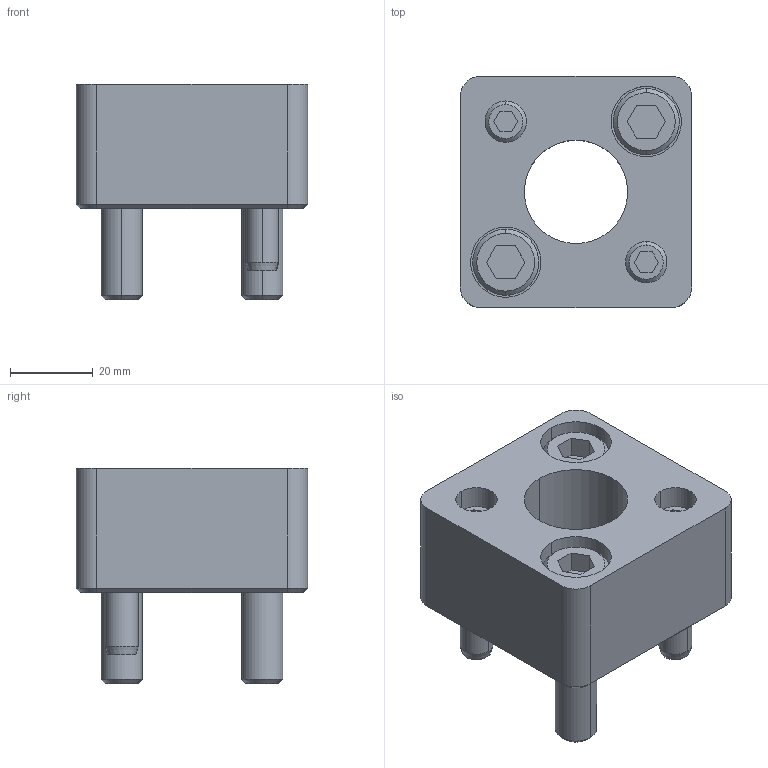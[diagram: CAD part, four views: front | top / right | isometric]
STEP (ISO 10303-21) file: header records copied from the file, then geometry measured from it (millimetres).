
FILE_DESCRIPTION(/* description */ (''),/* implementation_level */ '2;1');
FILE_NAME(/* name */ '3d_hmpsr25_04141_r00.stp',/* time_stamp */ '2011-01-10T14:14:41+09:00',/* author */ ('MISUMI'),/* organization */ (''),/* preprocessor_version */ 'ST-DEVELOPER v11',/* originating_system */ 'UGS - NX 5.0',/* authorisation */ '');
FILE_SCHEMA (('CONFIG_CONTROL_DESIGN'));
Length unit declared in the file: millimetre
Products named in the file (1): 3d_hmpsr25_04141_r00
Bounding box: 56 x 56 x 52 mm (x, y, z)
Volume: 78656.2 mm3; surface area: 25124.4 mm2
Topology: 7 solids, 7 shells, 143 faces, 310 edges, 196 vertices
Faces by surface type: plane 63, cylinder 50, cone 30
Entity records: 4026 total; most frequent: DIRECTION 718, CARTESIAN_POINT 704, ORIENTED_EDGE 620, EDGE_CURVE 310, AXIS2_PLACEMENT_3D 274, VERTEX_POINT 196, LINE 170, VECTOR 170
